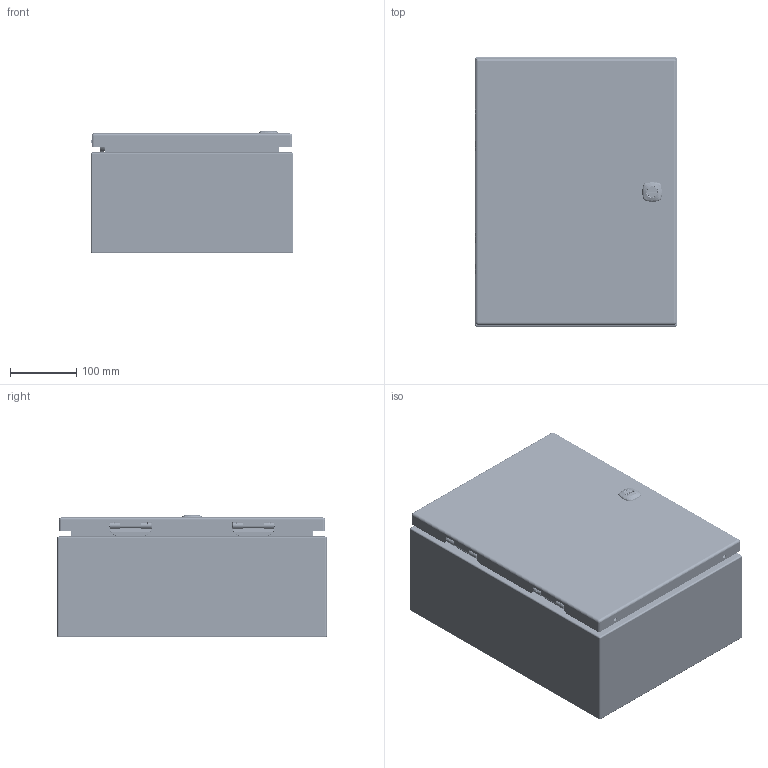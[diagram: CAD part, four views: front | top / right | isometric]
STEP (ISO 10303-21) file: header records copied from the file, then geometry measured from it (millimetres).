
FILE_DESCRIPTION(/* description */ ('5412ES 16" x 12" x 6" Assembly'),/* implementation_level */ '2;1');
FILE_NAME(/* name */ 'C:\Vault_Workspace\Inventor_Dwg\BoxCad\Result\5412ESB161206\e-mail\3D\5412ESB161206.stp',/* time_stamp */ '2022-03-11T10:59:08-05:00',/* author */ ('BoxCad'),/* organization */ (''),/* preprocessor_version */ 'ST-DEVELOPER v18.1',/* originating_system */ 'Autodesk Inventor 2020',/* authorisation */ '');
FILE_SCHEMA (('AUTOMOTIVE_DESIGN { 1 0 10303 214 3 1 1 }'));
Products named in the file (42): 5412ESB161206; 5412ESB161206B; 5412ESB161206B-P; STK-Q-16005; STUD_M6 x 16mm; STK-Q-07610; 881SP1612G; 881SP1612G-P; STK-Q-07310; 5412ESB161206C; 5412ESB161206C-P; 5412ESB161206G; STK-K-09800; STK-K-09800-2; STK-Q-33014; STK-Q-90398; STK-Q-40095; STK-Q-63410; STK-Q-16055; STK-Q-46020-16; STK-Q-07220-1; STK-Q-07220-2; STK-Q-07220-3; STK-Q-07220-4; STK-Q-07220-A; STK-Q-07220-B; STK-P-03820R; STK-S-00100; STK-A-880SCQ4-SL-1; STK-Q-78110; STK-Q-78120; STK-Q-78145; STK-Q-03200; STK-Q-78125; STK-Q-78141; STK-Q-90390; STK-Q-78160; STK-Q-04050-07; STK-Q-04050-07-2; STK-Q-04050-07-P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
Assembly tree (71 placements, depth 4):
  5412ESB161206
    5412ESB161206B
      5412ESB161206B-P
      STK-Q-16005  x4
      STK-P-03820R
      STUD_M6 x 16mm
    STK-Q-07610  x4
    881SP1612G
      881SP1612G-P
    STK-Q-07310  x4
    5412ESB161206C
      5412ESB161206C-P
      5412ESB161206G
      STK-K-09800
        STK-Q-33014
        STK-Q-90398
        STK-Q-40095  x2
        STK-Q-63410  x2
      STK-K-09800-2
        STK-Q-33014
        STK-Q-90398
        STK-Q-40095  x2
        STK-Q-63410  x2
      STK-Q-16055  x4
      STK-Q-46020-16  x2
      STK-Q-07220-1
        STK-Q-07220-A
        STK-Q-07220-B
      STK-Q-07220-2
        STK-Q-07220-A
        STK-Q-07220-B
      STK-Q-07220-3
        STK-Q-07220-A
        STK-Q-07220-B
      STK-Q-07220-4
        STK-Q-07220-A
        STK-Q-07220-B
      STK-P-03820R
      STK-S-00100
      STK-A-880SCQ4-SL-1
        STK-Q-78110
        STK-Q-78120
        STK-Q-78145
        STK-Q-03200
        STK-Q-78125
        STK-Q-78141
        STK-Q-90390
        STK-Q-78160
    STK-Q-04050-07
      STK-Q-04050-07-P
      STK-Q-04050-N
    STK-Q-04050-07-2
      STK-Q-04050-07-P
      STK-Q-04050-N
    STK-A-01800
Bounding box: 304.87 x 406.4 x 185.55 mm (x, y, z)
Volume: 1105858 mm3; surface area: 1416939.1 mm2
Topology: 56 solids, 56 shells, 8094 faces, 21846 edges, 13905 vertices
Faces by surface type: bspline 3057, cylinder 2194, plane 2008, torus 524, sphere 164, cone 147
Full cylindrical faces by diameter (mm): 0 x1, 0.75 x9, 0.762 x9, 1 x8, 1.1 x8, 3.2 x4, 4.191 x24, 4.5 x4, 4.521 x8, 4.75 x2, 4.85 x16, 4.95 x4, 5 x4, 5.1 x25, 5.156 x4, 5.6 x2, 5.9 x21, 6.015 x24, 6.65 x4, 6.8 x4, 6.85 x16, 7.3 x2, 7.366 x4, 7.9 x8, 8 x12, 8.382 x2, 9.5 x4, 9.6 x1, 9.906 x4, 10 x1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
Entity records: 149829 total; most frequent: CARTESIAN_POINT 63004, ORIENTED_EDGE 19982, DIRECTION 14233, EDGE_CURVE 9991, VERTEX_POINT 6311, AXIS2_PLACEMENT_3D 5228, EDGE_LOOP 4068, FACE_OUTER_BOUND 3845
